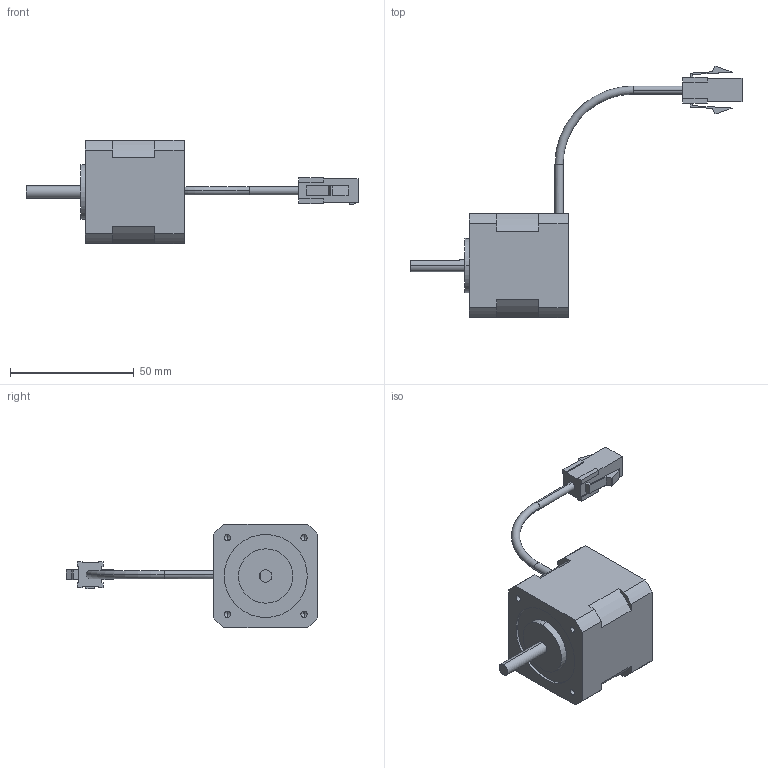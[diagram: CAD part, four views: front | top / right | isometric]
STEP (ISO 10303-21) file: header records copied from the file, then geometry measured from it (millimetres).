
FILE_DESCRIPTION (( 'STEP AP203' ), '1' );
FILE_NAME ('P21-MO-042-02-R00.STEP', '2015-06-30T07:53:24', ( '' ), ( '' ), 'SwSTEP 2.0', 'SolidWorks 2013', '' );
FILE_SCHEMA (( 'CONFIG_CONTROL_DESIGN' ));
Length unit declared in the file: millimetre
Products named in the file (3): M21-MO-042-02-R00_湀_; Power_Cable_ル遽; P21-MO-042-02-R00
Assembly tree (2 placements, depth 2):
  P21-MO-042-02-R00
    M21-MO-042-02-R00_湀_
    Power_Cable_ル遽
Bounding box: 134.28 x 101.61 x 42 mm (x, y, z)
Volume: 71202.5 mm3; surface area: 14620.7 mm2
Topology: 2 solids, 2 shells, 240 faces, 616 edges, 402 vertices
Faces by surface type: plane 160, cylinder 70, cone 8, torus 2
Entity records: 7505 total; most frequent: CARTESIAN_POINT 1255, DIRECTION 1246, ORIENTED_EDGE 1216, EDGE_CURVE 608, VECTOR 460, LINE 460, VERTEX_POINT 402, AXIS2_PLACEMENT_3D 393
